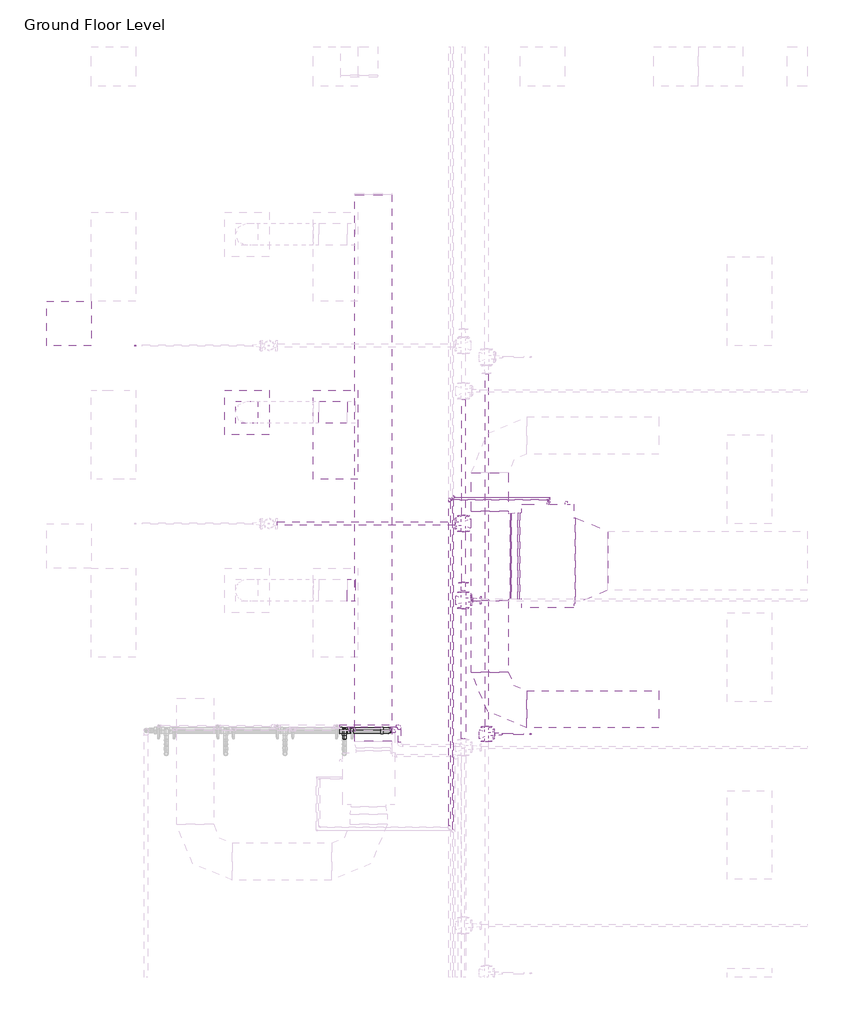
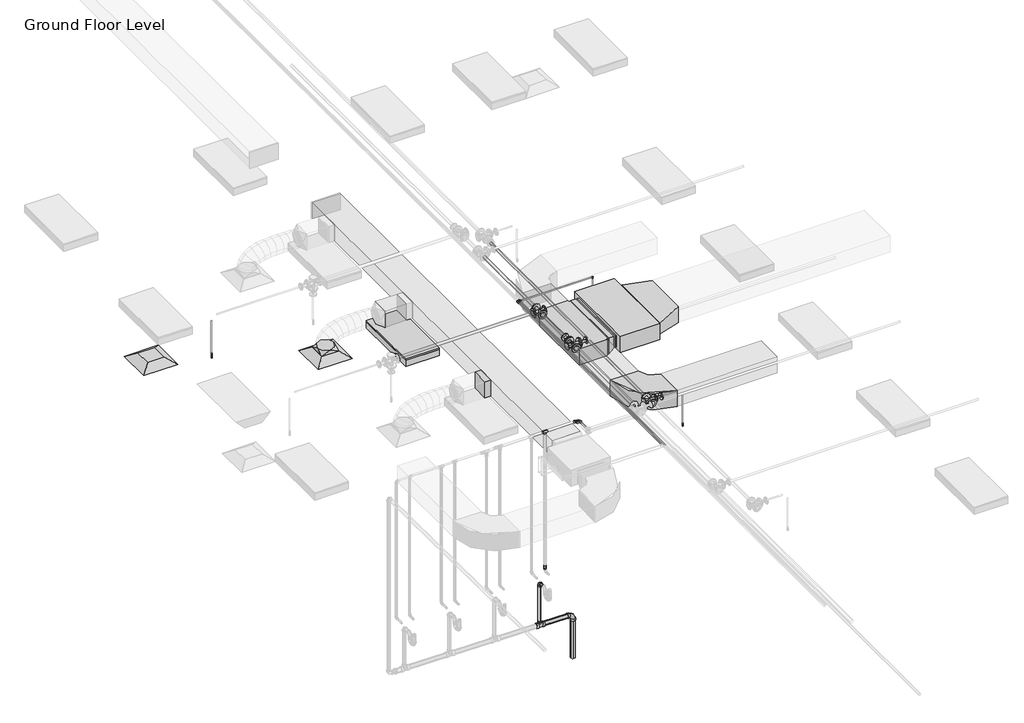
# One storey, part 25 of 74: 23 pipe fittings, 22 pipe segments, 7 duct fittings, 7 duct segments, 2 air terminals, 2 fire suppression terminals, 1 light fixture, 1 proxy.
"""IFC4 building model written with IfcOpenShell, lengths in millimetres."""

from ifc_helpers import new_model, si_unit, point, frame, frame_2d, origin, place, context, project, spatial, polyline, circle_curve, trimmed, segment, composite_curve, outline, extrude, transform, mapped, element, save
from components import m_return_diffuser_600_x_600_face_300_x_300_connection_ff221211, fcu_daikin_iu_5a1bd61d, m_rectangular_elbow_radius_1_w_abe20169, m_rectangular_takeoff_standard_cb0ccb98, m_rectangular_tee_standard_c717c13b, m_rectangular_transition_angle_45_degree_d2868699, m_rectangular_transition_angle_45_degree_3270bfc3, m_rectangular_transition_angle_45_degree_83bbb609, m_rectangular_to_round_transition_angle_45_degree_641efff0, m_sprinkler_dry_pendent_hosted_15_mm_dry_pendent_9bda8e11, m_sprinkler_pendent_15_mm_pendent_06fcbd8e, m_troffer_light_parabolic_rectangular1_0600x1200mm_4_lamp_86473d4a, m_bend_pvc_sch_40_dwv_standard_0eeb11e1, m_bend_pvc_sch_40_dwv_standard_1e7bdcc1, m_elbow_generic_standard_a088f956, m_elbow_generic_standard_2a704253, m_elbow_generic_standard_411ee063, m_elbow_generic_standard_a67d3ed8, m_reducer_flanged_cs_class_150_standard_cc2a7c1d, m_reducer_flanged_cs_class_150_standard_3ab32b2b, m_reducer_flanged_cs_class_150_standard_a7631c35, m_tee_generic_standard_5b2ed4d4, m_tee_generic_standard_5078887e, m_tee_reducing_sanitary_pvc_sch_40_dwv_standard_21d2848c, m_tee_round_base_flanged_cs_class_150_standard_dd767e04, m_tee_round_base_flanged_cs_class_150_standard_9c9133d0, m_tee_round_base_flanged_cs_class_150_standard_ab36f383, m_transition_generic_standard_5f8a9689, m_transition_generic_standard_bdcfe2c1, m_transition_generic_standard_44e35838, m_transition_generic_standard_570aa73b, standard_517a5a8d, standard_72b35c3b, standard_c7dcb452

model = new_model("IFC4")

# Units and contexts
model_context = context("Model", 3, world=origin())
ifc_project = project(units=[si_unit("LENGTHUNIT", "METRE", prefix="MILLI")], contexts=[model_context])

# Site, building, storey
site = spatial("IfcSite", under=ifc_project)
building = spatial("IfcBuilding", under=site)
storey = spatial("IfcBuildingStorey", under=building, Name="Ground Floor Level", Elevation=900.0)

# Air terminals
placement = place(None, origin())
m_return_diffuser_600_x_600_face_300_x_300_connection_shape = m_return_diffuser_600_x_600_face_300_x_300_connection_ff221211(model_context)
element("IfcAirTerminal", 1, ObjectType="M_Return Diffuser : 600 x 600 Face 300 x 300 Connection", at=placement, inside=storey, context=model_context, shape_type="MappedRepresentation", body=[
    mapped(m_return_diffuser_600_x_600_face_300_x_300_connection_shape, transform((362.7672395, -18364.7846466, 3650.0), x_axis=(1.0, 0.0, 0.0), y_axis=(0.0, 1.0, 0.0), z_axis=(0.0, 0.0, 1.0))),
])
element("IfcAirTerminal", 2, ObjectType="M_Supply Diffuser : 600 x 600 Face 300 x 300 Connection", at=placement, inside=storey, context=model_context, shape_type="MappedRepresentation", body=[
    mapped(m_return_diffuser_600_x_600_face_300_x_300_connection_shape, transform((2762.7672395, -19564.7846466, 3650.0), x_axis=(1.0, 0.0, 0.0), y_axis=(0.0, 1.0, 0.0), z_axis=(0.0, 0.0, 1.0))),
])

# Proxy
fcu_daikin_iu_shape = fcu_daikin_iu_5a1bd61d(model_context)
element("IfcBuildingElementProxy", 3, Name="FCU-DAIKIN IU : 9kW, 230V/50Hz/1Ph", ObjectType="FCU-DAIKIN IU : 9kW, 230V/50Hz/1Ph", at=placement, inside=storey, context=model_context, shape_type="MappedRepresentation", body=[
    mapped(fcu_daikin_iu_shape, transform((6820.4959647, -21503.0689179, 3984.0882279), x_axis=(0.0, 1.0, 0.0), y_axis=(-1.0, 0.0, 0.0), z_axis=(0.0, 0.0, 1.0))),
])

# Duct fittings
m_rectangular_elbow_radius_1_w_shape = m_rectangular_elbow_radius_1_w_abe20169(model_context)
element("IfcDuctFitting", 4, ObjectType="M_Rectangular Elbow - Radius : 1 W", at=placement, inside=storey, context=model_context, shape_type="MappedRepresentation", body=[
    mapped(m_rectangular_elbow_radius_1_w_shape, transform((6040.9897768, -23568.5689179, 4082.4543707), x_axis=(0.0, -1.0, 0.0), y_axis=(1.0, 0.0, 0.0), z_axis=(0.0, 0.0, 1.0))),
])
m_rectangular_takeoff_standard_shape = m_rectangular_takeoff_standard_cb0ccb98(model_context)
element("IfcDuctFitting", 5, ObjectType="M_Rectangular Takeoff : Standard", at=placement, inside=storey, context=model_context, shape_type="MappedRepresentation", body=[
    mapped(m_rectangular_takeoff_standard_shape, transform((4219.1581832, -21964.7846466, 4057.1519579), x_axis=(-1.0, 0.0, 0.0), y_axis=(0.0, 1.0, 0.0), z_axis=(0.0, 0.0, -1.0))),
])
m_rectangular_tee_standard_shape = m_rectangular_tee_standard_c717c13b(model_context)
element("IfcDuctFitting", 6, ObjectType="M_Rectangular Tee : Standard", at=placement, inside=storey, context=model_context, shape_type="MappedRepresentation", body=[
    mapped(m_rectangular_tee_standard_shape, transform((6040.9973279, -21503.0689179, 4082.4405262), x_axis=(0.0, -1.0, 0.0), y_axis=(-1.0, 0.0, 0.0), z_axis=(0.0, 0.0, -1.0))),
])
m_rectangular_transition_angle_45_degree_shape = m_rectangular_transition_angle_45_degree_d2868699(model_context)
element("IfcDuctFitting", 7, ObjectType="M_Rectangular Transition - Angle : 45 Degree", at=placement, inside=storey, context=model_context, shape_type="MappedRepresentation", body=[
    mapped(m_rectangular_transition_angle_45_degree_shape, transform((7195.8959647, -21566.5689179, 4150.0007279), x_axis=(1.0, 0.0, 0.0), y_axis=(0.0, 1.0, 0.0), z_axis=(0.0, 0.0, 1.0))),
])
m_rectangular_transition_angle_45_degree_2_shape = m_rectangular_transition_angle_45_degree_3270bfc3(model_context)
element("IfcDuctFitting", 8, ObjectType="M_Rectangular Transition - Angle : 45 Degree", at=placement, inside=storey, context=model_context, shape_type="MappedRepresentation", body=[
    mapped(m_rectangular_transition_angle_45_degree_2_shape, transform((6445.0959647, -21503.0689179, 4125.2882279), x_axis=(-1.0, 0.0, 0.0), y_axis=(0.0, -1.0, 0.0), z_axis=(0.0, 0.0, 1.0))),
])
m_rectangular_transition_angle_45_degree_3_shape = m_rectangular_transition_angle_45_degree_83bbb609(model_context)
element("IfcDuctFitting", 9, ObjectType="M_Rectangular Transition - Angle : 45 Degree", at=placement, inside=storey, context=model_context, shape_type="MappedRepresentation", body=[
    mapped(m_rectangular_transition_angle_45_degree_3_shape, transform((6416.9897764, -21503.0689179, 4125.4405264), x_axis=(-1.0, 0.0, 0.0), y_axis=(0.0, -1.0, 0.0), z_axis=(0.0, 0.0, 1.0))),
])
m_rectangular_to_round_transition_angle_45_degree_shape = m_rectangular_to_round_transition_angle_45_degree_641efff0(model_context)
element("IfcDuctFitting", 10, ObjectType="M_Rectangular to Round Transition - Angle : 45 Degree", at=placement, inside=storey, context=model_context, shape_type="MappedRepresentation", body=[
    mapped(m_rectangular_to_round_transition_angle_45_degree_shape, transform((2762.7672395, -19564.7846466, 3751.6), x_axis=(0.0, 0.0, 1.0), y_axis=(-1.0, 0.0, 0.0), z_axis=(0.0, -1.0, 0.0))),
])

# Duct segments
element("IfcDuctSegment", 11, ObjectType="Radius Elbows / Taps", at=placement, inside=storey, context=model_context, shape_type="SweptSolid", body=[
    extrude(outline(polyline([(0.0, -500.0), (0.0, 0.0), (7371.604175, 0.0), (7371.604175, -500.0), (0.0, -500.0)])), frame((4719.1581832, -16631.8629481, 3907.1429453), z_axis=(0.0, 1.6199957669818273e-06, 0.9999999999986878), x_axis=(0.0, -0.9999999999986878, 1.6199957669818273e-06)), (0.0, 0.0, 1.0), 300.0),
])
element("IfcDuctSegment", 12, ObjectType="Radius Elbows / Taps", at=placement, inside=storey, context=model_context, shape_type="SweptSolid", body=[
    extrude(outline(polyline([(6290.9897768, -20897.5689179), (5790.9897768, -20897.5689179), (5790.9897768, -20377.6206315), (6290.9897768, -20377.6206315), (6290.9897768, -20897.5689179)])), frame((0.0, 0.0, 3932.4543707), z_axis=(0.0, 0.0, 1.0), x_axis=(1.0, 0.0, 0.0)), (0.0, 0.0, 1.0), 300.0),
])
element("IfcDuctSegment", 13, ObjectType="Radius Elbows / Taps", at=placement, inside=storey, context=model_context, shape_type="SweptSolid", body=[
    extrude(outline(polyline([(5790.9897768, -22108.5689179), (6290.9897768, -22108.5689179), (6290.9897768, -23068.5689179), (5790.9897768, -23068.5689179), (5790.9897768, -22108.5689179)])), frame((0.0, 0.0, 3932.4543707), z_axis=(0.0, 0.0, 1.0), x_axis=(1.0, 0.0, 0.0)), (0.0, 0.0, 1.0), 300.0),
])
element("IfcDuctSegment", 14, ObjectType="Radius Elbows / Taps", at=placement, inside=storey, context=model_context, shape_type="SweptSolid", body=[
    extrude(outline(polyline([(6540.9897768, -23818.5689179), (6540.9897768, -23318.5689179), (8320.9897766, -23318.5689179), (8320.9897766, -23818.5689179), (6540.9897768, -23818.5689179)])), frame((0.0, 0.0, 3932.4543707), z_axis=(0.0, 0.0, 1.0), x_axis=(1.0, 0.0, 0.0)), (0.0, 0.0, 1.0), 300.0),
])
element("IfcDuctSegment", 15, ObjectType="Radius Elbows / Taps", at=placement, inside=storey, context=model_context, shape_type="SweptSolid", body=[
    extrude(outline(polyline([(6315.9897764, -22083.5689179), (6315.9897764, -20922.5689179), (6330.9897764, -20922.5689179), (6330.9897764, -22083.5689179), (6315.9897764, -22083.5689179)])), frame((0.0, 0.0, 3932.4405264), z_axis=(0.0, 0.0, 1.0), x_axis=(1.0, 0.0, 0.0)), (0.0, 0.0, 1.0), 300.0),
])
element("IfcDuctSegment", 16, ObjectType="Radius Elbows / Taps", at=placement, inside=storey, context=model_context, shape_type="SweptSolid", body=[
    extrude(outline(polyline([(6444.798299, -20922.0689179), (6444.798299, -22084.0689179), (6416.9897764, -22084.0689179), (6416.9897764, -20922.0689179), (6444.798299, -20922.0689179)])), frame((0.0, 0.0, 4018.4405264), z_axis=(0.0, 0.0, 1.0), x_axis=(1.0, 0.0, 0.0)), (0.0, 0.0, 1.0), 214.0),
])
element("IfcDuctSegment", 17, ObjectType="Radius Elbows / Taps", at=placement, inside=storey, context=model_context, shape_type="SweptSolid", body=[
    extrude(outline(polyline([(4117.5581832, -19414.7846466), (4117.5581832, -19714.7846466), (3732.9552689, -19714.7846466), (3732.9552689, -19414.7846466), (4117.5581832, -19414.7846466)])), frame((0.0, 0.0, 3907.1479019), z_axis=(0.0, 0.0, 1.0), x_axis=(1.0, 0.0, 0.0)), (0.0, 0.0, 1.0), 300.0),
])

# Fire suppression terminals
m_sprinkler_dry_pendent_hosted_15_mm_dry_pendent_shape = m_sprinkler_dry_pendent_hosted_15_mm_dry_pendent_9bda8e11(model_context)
element("IfcFireSuppressionTerminal", 18, ObjectType="M_Sprinkler - Dry - Pendent - Hosted : 15 mm Dry Pendent", at=placement, inside=storey, context=model_context, shape_type="MappedRepresentation", body=[
    mapped(m_sprinkler_dry_pendent_hosted_15_mm_dry_pendent_shape, transform((1262.7672395, -18664.7846466, 3650.0), x_axis=(1.0, 0.0, 0.0), y_axis=(0.0, -1.0, 0.0), z_axis=(0.0, 0.0, -1.0))),
])
m_sprinkler_pendent_15_mm_pendent_shape = m_sprinkler_pendent_15_mm_pendent_06fcbd8e(model_context)
element("IfcFireSuppressionTerminal", 19, ObjectType="M_Sprinkler - Pendent : 15 mm Pendent", at=placement, inside=storey, context=model_context, shape_type="MappedRepresentation", body=[
    mapped(m_sprinkler_pendent_15_mm_pendent_shape, transform((6592.5481019, -23903.6779349, 3650.0), x_axis=(1.0, 0.0, 0.0), y_axis=(0.0, 1.0, 0.0), z_axis=(0.0, 0.0, 1.0))),
])

# Light fixture
m_troffer_light_parabolic_rectangular1_0600x1200mm_4_lamp_shape = m_troffer_light_parabolic_rectangular1_0600x1200mm_4_lamp_86473d4a(model_context)
element("IfcLightFixture", 20, ObjectType="M_Troffer Light - Parabolic Rectangular1 : 0600x1200mm(4 Lamp) - 277V 2", at=placement, inside=storey, context=model_context, shape_type="MappedRepresentation", body=[
    mapped(m_troffer_light_parabolic_rectangular1_0600x1200mm_4_lamp_shape, transform((3903.3013074, -19846.081145, 3650.0), x_axis=(0.0, 1.0, 0.0), y_axis=(-1.0, 0.0, 0.0), z_axis=(0.0, 0.0, 1.0))),
])

# Pipe fittings
m_bend_pvc_sch_40_dwv_standard_shape = m_bend_pvc_sch_40_dwv_standard_0eeb11e1(model_context)
element("IfcPipeFitting", 21, ObjectType="M_Bend - PVC - Sch 40 - DWV : Standard", at=placement, inside=storey, context=model_context, shape_type="MappedRepresentation", body=[
    mapped(m_bend_pvc_sch_40_dwv_standard_shape, transform((4671.3267974, -23854.2948449, 706.9937306), x_axis=(0.9999500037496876, 0.0, -0.009999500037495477), y_axis=(-0.009999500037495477, 0.0, -0.9999500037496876), z_axis=(0.0, 1.0, 0.0))),
])
m_bend_pvc_sch_40_dwv_standard_2_shape = m_bend_pvc_sch_40_dwv_standard_1e7bdcc1(model_context)
element("IfcPipeFitting", 22, ObjectType="M_Bend - PVC - Sch 40 - DWV : Standard", at=placement, inside=storey, context=model_context, shape_type="MappedRepresentation", body=[
    mapped(m_bend_pvc_sch_40_dwv_standard_2_shape, transform((4078.7498, -23854.2948449, 1508.2594199), x_axis=(0.0, 0.9999500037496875, -0.00999950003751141), y_axis=(0.0, -0.00999950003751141, -0.9999500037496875), z_axis=(-1.0, 0.0, 0.0))),
])
m_elbow_generic_standard_shape = m_elbow_generic_standard_a088f956(model_context)
element("IfcPipeFitting", 23, ObjectType="M_Elbow - Generic : Standard", at=placement, inside=storey, context=model_context, shape_type="MappedRepresentation", body=[
    mapped(m_elbow_generic_standard_shape, transform((6820.4959647, -20745.3977393, 4390.0), x_axis=(1.0, 0.0, 0.0), y_axis=(0.0, 0.0, -1.0), z_axis=(0.0, 1.0, 0.0))),
])
m_elbow_generic_standard_2_shape = m_elbow_generic_standard_2a704253(model_context)
element("IfcPipeFitting", 24, ObjectType="M_Elbow - Generic : Standard", at=placement, inside=storey, context=model_context, shape_type="MappedRepresentation", body=[
    mapped(m_elbow_generic_standard_2_shape, transform((6845.4959647, -20711.8462992, 4377.5), x_axis=(1.0, 0.0, 0.0), y_axis=(0.0, 0.0, -1.0), z_axis=(0.0, 1.0, 0.0))),
])
m_elbow_generic_standard_3_shape = m_elbow_generic_standard_411ee063(model_context)
element("IfcPipeFitting", 25, ObjectType="M_Elbow - Generic : Standard", at=placement, inside=storey, context=model_context, shape_type="MappedRepresentation", body=[
    mapped(m_elbow_generic_standard_3_shape, transform((6820.4959647, -20745.3896748, 4084.1050098), x_axis=(0.0, 0.0, -1.0), y_axis=(0.0, -1.0, 0.0), z_axis=(-1.0, 0.0, 0.0))),
])
m_elbow_generic_standard_4_shape = m_elbow_generic_standard_a67d3ed8(model_context)
element("IfcPipeFitting", 26, ObjectType="M_Elbow - Generic : Standard", at=placement, inside=storey, context=model_context, shape_type="MappedRepresentation", body=[
    mapped(m_elbow_generic_standard_4_shape, transform((6845.4959647, -20711.8400273, 4134.9034747), x_axis=(0.0, 0.0, -1.0), y_axis=(0.0, -1.0, 0.0), z_axis=(-1.0, 0.0, 0.0))),
])
m_reducer_flanged_cs_class_150_standard_shape = m_reducer_flanged_cs_class_150_standard_cc2a7c1d(model_context)
element("IfcPipeFitting", 27, ObjectType="M_Reducer - Flanged - CS - Class 150 : Standard", at=placement, inside=storey, context=model_context, shape_type="MappedRepresentation", body=[
    mapped(m_reducer_flanged_cs_class_150_standard_shape, transform((6103.1564057, -23903.6779349, 4290.0), x_axis=(1.0, 0.0, 0.0), y_axis=(0.0, 0.0, -1.0), z_axis=(0.0, 1.0, 0.0))),
])
m_reducer_flanged_cs_class_150_standard_2_shape = m_reducer_flanged_cs_class_150_standard_3ab32b2b(model_context)
element("IfcPipeFitting", 28, ObjectType="M_Reducer - Flanged - CS - Class 150 : Standard", at=placement, inside=storey, context=model_context, shape_type="MappedRepresentation", body=[
    mapped(m_reducer_flanged_cs_class_150_standard_2_shape, transform((5684.6174894, -21984.0287346, 4347.5), x_axis=(0.0, 1.0, 0.0), y_axis=(-1.0, 0.0, 0.0), z_axis=(0.0, 0.0, 1.0))),
])
m_reducer_flanged_cs_class_150_standard_3_shape = m_reducer_flanged_cs_class_150_standard_a7631c35(model_context)
element("IfcPipeFitting", 29, ObjectType="M_Reducer - Flanged - CS - Class 150 : Standard", at=placement, inside=storey, context=model_context, shape_type="MappedRepresentation", body=[
    mapped(m_reducer_flanged_cs_class_150_standard_3_shape, transform((5798.6174894, -22098.0287346, 4347.5), x_axis=(1.0, 0.0, 0.0), y_axis=(0.0, 0.0, 1.0), z_axis=(0.0, -1.0, 0.0))),
])
m_tee_generic_standard_shape = m_tee_generic_standard_5b2ed4d4(model_context)
element("IfcPipeFitting", 30, ObjectType="M_Tee - Generic : Standard", at=placement, inside=storey, context=model_context, shape_type="MappedRepresentation", body=[
    mapped(m_tee_generic_standard_shape, transform((5543.9904113, -20711.8462992, 4377.5), x_axis=(0.0, -1.0, 0.0), y_axis=(-1.0, 0.0, 0.0), z_axis=(0.0, 0.0, -1.0))),
])
m_tee_generic_standard_2_shape = m_tee_generic_standard_5078887e(model_context)
element("IfcPipeFitting", 31, ObjectType="M_Tee - Generic : Standard", at=placement, inside=storey, context=model_context, shape_type="MappedRepresentation", body=[
    mapped(m_tee_generic_standard_2_shape, transform((5497.8951827, -20745.3977393, 4390.0), x_axis=(0.0, -1.0, 0.0), y_axis=(-1.0, 0.0, 0.0), z_axis=(0.0, 0.0, -1.0))),
])
m_tee_reducing_sanitary_pvc_sch_40_dwv_standard_shape = m_tee_reducing_sanitary_pvc_sch_40_dwv_standard_21d2848c(model_context)
element("IfcPipeFitting", 32, ObjectType="M_Tee Reducing Sanitary - PVC - Sch 40 - DWV : Standard", at=placement, inside=storey, context=model_context, shape_type="MappedRepresentation", body=[
    mapped(m_tee_reducing_sanitary_pvc_sch_40_dwv_standard_shape, transform((4078.7498, -23854.2948449, 713.0632162), x_axis=(-0.9999500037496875, 0.0, 0.00999950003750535), y_axis=(-0.00999950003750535, 0.0, -0.9999500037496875), z_axis=(0.0, -1.0, 0.0))),
])
m_tee_round_base_flanged_cs_class_150_standard_shape = m_tee_round_base_flanged_cs_class_150_standard_dd767e04(model_context)
element("IfcPipeFitting", 33, ObjectType="M_Tee Round Base - Flanged - CS - Class 150 : Standard", at=placement, inside=storey, context=model_context, shape_type="MappedRepresentation", body=[
    mapped(m_tee_round_base_flanged_cs_class_150_standard_shape, transform((5684.6174894, -22098.0287346, 4347.5), x_axis=(0.0, -1.0, 0.0), y_axis=(-1.0, 0.0, 0.0), z_axis=(0.0, 0.0, -1.0))),
])
m_tee_round_base_flanged_cs_class_150_standard_2_shape = m_tee_round_base_flanged_cs_class_150_standard_9c9133d0(model_context)
element("IfcPipeFitting", 34, ObjectType="M_Tee Round Base - Flanged - CS - Class 150 : Standard", at=placement, inside=storey, context=model_context, shape_type="MappedRepresentation", body=[
    mapped(m_tee_round_base_flanged_cs_class_150_standard_2_shape, transform((5997.057812, -23903.6779349, 4290.0), x_axis=(0.0, 1.0, 0.0), y_axis=(-1.0, 0.0, 0.0), z_axis=(0.0, 0.0, 1.0))),
])
m_tee_round_base_flanged_cs_class_150_standard_3_shape = m_tee_round_base_flanged_cs_class_150_standard_ab36f383(model_context)
element("IfcPipeFitting", 35, ObjectType="M_Tee Round Base - Flanged - CS - Class 150 : Standard", at=placement, inside=storey, context=model_context, shape_type="MappedRepresentation", body=[
    mapped(m_tee_round_base_flanged_cs_class_150_standard_3_shape, transform((5684.6174894, -21064.7846466, 4347.5), x_axis=(0.0, -1.0, 0.0), y_axis=(1.0, 0.0, 0.0), z_axis=(0.0, 0.0, 1.0))),
])
m_transition_generic_standard_shape = m_transition_generic_standard_5f8a9689(model_context)
element("IfcPipeFitting", 36, ObjectType="M_Transition - Generic : Standard", at=placement, inside=storey, context=model_context, shape_type="MappedRepresentation", body=[
    mapped(m_transition_generic_standard_shape, transform((5497.8951827, -20721.5852393, 4390.0), x_axis=(0.0, 1.0, 0.0), y_axis=(-1.0, 0.0, 0.0), z_axis=(0.0, 0.0, 1.0))),
])
m_transition_generic_standard_2_shape = m_transition_generic_standard_bdcfe2c1(model_context)
element("IfcPipeFitting", 37, ObjectType="M_Transition - Generic : Standard", at=placement, inside=storey, context=model_context, shape_type="MappedRepresentation", body=[
    mapped(m_transition_generic_standard_2_shape, transform((5564.6279113, -20711.8462992, 4377.5), x_axis=(1.0, 0.0, 0.0), y_axis=(0.0, 1.0, 0.0), z_axis=(0.0, 0.0, 1.0))),
])
m_transition_generic_standard_3_shape = m_transition_generic_standard_44e35838(model_context)
element("IfcPipeFitting", 38, ObjectType="M_Transition - Generic : Standard", at=placement, inside=storey, context=model_context, shape_type="MappedRepresentation", body=[
    mapped(m_transition_generic_standard_3_shape, transform((5521.7076827, -20745.3977393, 4390.0), x_axis=(1.0, 0.0, 0.0), y_axis=(0.0, 1.0, 0.0), z_axis=(0.0, 0.0, 1.0))),
])
m_transition_generic_standard_4_shape = m_transition_generic_standard_570aa73b(model_context)
element("IfcPipeFitting", 39, ObjectType="M_Transition - Generic : Standard", at=placement, inside=storey, context=model_context, shape_type="MappedRepresentation", body=[
    mapped(m_transition_generic_standard_4_shape, transform((5543.9904113, -20691.2087992, 4377.5), x_axis=(0.0, 1.0, 0.0), y_axis=(-1.0, 0.0, 0.0), z_axis=(0.0, 0.0, 1.0))),
])
standard_shape = standard_517a5a8d(model_context)
element("IfcPipeFitting", 40, ObjectType="M_Elbow - CPVC - Sch 40 : Standard", at=placement, inside=storey, context=model_context, shape_type="MappedRepresentation", body=[
    mapped(standard_shape, transform((4743.0647206, -23844.7846466, 4300.0), x_axis=(0.0, 1.0, 0.0), y_axis=(-1.0, 0.0, 0.0), z_axis=(0.0, 0.0, 1.0))),
])
element("IfcPipeFitting", 41, ObjectType="M_Elbow - CPVC - Sch 40 : Standard", at=placement, inside=storey, context=model_context, shape_type="MappedRepresentation", body=[
    mapped(standard_shape, transform((4820.5575802, -23794.921633, 4250.0), x_axis=(0.0, 1.0, 0.0), y_axis=(-1.0, 0.0, 0.0), z_axis=(0.0, 0.0, 1.0))),
])
standard_2_shape = standard_72b35c3b(model_context)
element("IfcPipeFitting", 42, ObjectType="M_Tee - CPVC - Sch 40 : Standard", at=placement, inside=storey, context=model_context, shape_type="MappedRepresentation", body=[
    mapped(standard_2_shape, transform((4183.0647206, -23844.7846466, 4300.0), x_axis=(-1.0, 0.0, 0.0), y_axis=(0.0, 0.0, 1.0), z_axis=(0.0, 1.0, 0.0))),
])
standard_3_shape = standard_c7dcb452(model_context)
element("IfcPipeFitting", 43, ObjectType="M_Coupling Reducing - CPVC - Sch 40 : Standard", at=placement, inside=storey, context=model_context, shape_type="MappedRepresentation", body=[
    mapped(standard_3_shape, transform((4183.0647206, -23844.7846466, 1725.32505), x_axis=(0.0, 0.0, 1.0), y_axis=(0.0, 1.0, 0.0), z_axis=(-1.0, 0.0, 0.0))),
])

# Pipe segments
element("IfcPipeSegment", 44, ObjectType="CPVC", at=placement, inside=storey, context=model_context, shape_type="SweptSolid", body=[
    extrude(outline(composite_curve([segment(trimmed(circle_curve(frame_2d((4250.0, 4820.5575802)), 16.7005), [point((4250.0, 4837.2580802))], [point((4266.7005, 4820.5575802))], False, "CARTESIAN"), True, "CONTINUOUS"), segment(trimmed(circle_curve(frame_2d((4250.0, 4820.5575802)), 16.7005), [point((4266.7005, 4820.5575802))], [point((4250.0, 4803.8570802))], False, "CARTESIAN"), True, "CONTINUOUS"), segment(trimmed(circle_curve(frame_2d((4250.0, 4820.5575802)), 16.7005), [point((4250.0, 4803.8570802))], [point((4233.2995, 4820.5575802))], False, "CARTESIAN"), True, "CONTINUOUS"), segment(trimmed(circle_curve(frame_2d((4250.0, 4820.5575802)), 16.7005), [point((4233.2995, 4820.5575802))], [point((4250.0, 4837.2580802))], False, "CARTESIAN"), True, "CONTINUOUS")], self_intersect=False)), frame((0.0, -24011.659083, 0.0), z_axis=(0.0, 1.0, 0.0), x_axis=(0.0, 0.0, 1.0)), (0.0, 0.0, 1.0), 173.4749),
])
element("IfcPipeSegment", 45, ObjectType="CPVC", at=placement, inside=storey, context=model_context, shape_type="SweptSolid", body=[
    extrude(outline(composite_curve([segment(trimmed(circle_curve(frame_2d((-23794.921633, 4250.0)), 16.7005), [point((-23811.622133, 4250.0))], [point((-23794.921633, 4266.7005))], False, "CARTESIAN"), True, "CONTINUOUS"), segment(trimmed(circle_curve(frame_2d((-23794.921633, 4250.0)), 16.7005), [point((-23794.921633, 4266.7005))], [point((-23778.221133, 4250.0))], False, "CARTESIAN"), True, "CONTINUOUS"), segment(trimmed(circle_curve(frame_2d((-23794.921633, 4250.0)), 16.7005), [point((-23778.221133, 4250.0))], [point((-23794.921633, 4233.2995))], False, "CARTESIAN"), True, "CONTINUOUS"), segment(trimmed(circle_curve(frame_2d((-23794.921633, 4250.0)), 16.7005), [point((-23794.921633, 4233.2995))], [point((-23811.622133, 4250.0))], False, "CARTESIAN"), True, "CONTINUOUS")], self_intersect=False)), frame((4014.1350794, 0.0, 0.0), z_axis=(1.0, 0.0, 0.0), x_axis=(0.0, 1.0, 0.0)), (0.0, 0.0, 1.0), 763.1599508),
])
element("IfcPipeSegment", 46, ObjectType="Copper", at=placement, inside=storey, context=model_context, shape_type="SweptSolid", body=[
    extrude(outline(composite_curve([segment(trimmed(circle_curve(frame_2d((-20711.8462992, 4377.5)), 3.35), [point((-20715.1962992, 4377.5))], [point((-20711.8462992, 4380.85))], False, "CARTESIAN"), True, "CONTINUOUS"), segment(trimmed(circle_curve(frame_2d((-20711.8462992, 4377.5)), 3.35), [point((-20711.8462992, 4380.85))], [point((-20708.4962992, 4377.5))], False, "CARTESIAN"), True, "CONTINUOUS"), segment(trimmed(circle_curve(frame_2d((-20711.8462992, 4377.5)), 3.35), [point((-20708.4962992, 4377.5))], [point((-20711.8462992, 4374.15))], False, "CARTESIAN"), True, "CONTINUOUS"), segment(trimmed(circle_curve(frame_2d((-20711.8462992, 4377.5)), 3.35), [point((-20711.8462992, 4374.15))], [point((-20715.1962992, 4377.5))], False, "CARTESIAN"), True, "CONTINUOUS")], self_intersect=False)), frame((5568.5966613, 0.0, 0.0), z_axis=(1.0, 0.0, 0.0), x_axis=(0.0, 1.0, 0.0)), (0.0, 0.0, 1.0), 1265.7618034),
])
element("IfcPipeSegment", 47, ObjectType="Copper", at=placement, inside=storey, context=model_context, shape_type="SweptSolid", body=[
    extrude(outline(composite_curve([segment(trimmed(circle_curve(frame_2d((-20745.3977393, 4390.0)), 6.5), [point((-20751.8977393, 4390.0))], [point((-20745.3977393, 4396.5))], False, "CARTESIAN"), True, "CONTINUOUS"), segment(trimmed(circle_curve(frame_2d((-20745.3977393, 4390.0)), 6.5), [point((-20745.3977393, 4396.5))], [point((-20738.8977393, 4390.0))], False, "CARTESIAN"), True, "CONTINUOUS"), segment(trimmed(circle_curve(frame_2d((-20745.3977393, 4390.0)), 6.5), [point((-20738.8977393, 4390.0))], [point((-20745.3977393, 4383.5))], False, "CARTESIAN"), True, "CONTINUOUS"), segment(trimmed(circle_curve(frame_2d((-20745.3977393, 4390.0)), 6.5), [point((-20745.3977393, 4383.5))], [point((-20751.8977393, 4390.0))], False, "CARTESIAN"), True, "CONTINUOUS")], self_intersect=False)), frame((5527.2639327, 0.0, 0.0), z_axis=(1.0, 0.0, 0.0), x_axis=(0.0, 1.0, 0.0)), (0.0, 0.0, 1.0), 1278.9445321),
])
element("IfcPipeSegment", 48, ObjectType="Copper", at=placement, inside=storey, context=model_context, shape_type="SweptSolid", body=[
    extrude(outline(composite_curve([segment(trimmed(circle_curve(frame_2d((0.0, -6.5)), 6.5), [point((-6.5, -6.5))], [point((0.0, 0.0))], False, "CARTESIAN"), True, "CONTINUOUS"), segment(trimmed(circle_curve(frame_2d((0.0, -6.5)), 6.5), [point((0.0, 0.0))], [point((6.5, -6.5))], False, "CARTESIAN"), True, "CONTINUOUS"), segment(trimmed(circle_curve(frame_2d((0.0, -6.5)), 6.5), [point((6.5, -6.5))], [point((0.0, -13.0))], False, "CARTESIAN"), True, "CONTINUOUS"), segment(trimmed(circle_curve(frame_2d((0.0, -6.5)), 6.5), [point((0.0, -13.0))], [point((-6.5, -6.5))], False, "CARTESIAN"), True, "CONTINUOUS")], self_intersect=False)), frame((6820.4959647, -20764.9497842, 4077.5882561), z_axis=(0.0, 0.9999956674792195, 0.0029436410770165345), x_axis=(1.0, 0.0, 0.0)), (0.0, 0.0, 1.0), 5.2929673),
])
element("IfcPipeSegment", 49, ObjectType="Copper", at=placement, inside=storey, context=model_context, shape_type="SweptSolid", body=[
    extrude(outline(composite_curve([segment(trimmed(circle_curve(frame_2d((0.0, -3.35)), 3.35), [point((0.0, 0.0))], [point((3.35, -3.35))], False, "CARTESIAN"), True, "CONTINUOUS"), segment(trimmed(circle_curve(frame_2d((0.0, -3.35)), 3.35), [point((3.35, -3.35))], [point((0.0, -6.7))], False, "CARTESIAN"), True, "CONTINUOUS"), segment(trimmed(circle_curve(frame_2d((0.0, -3.35)), 3.35), [point((0.0, -6.7))], [point((-3.35, -3.35))], False, "CARTESIAN"), True, "CONTINUOUS"), segment(trimmed(circle_curve(frame_2d((0.0, -3.35)), 3.35), [point((-3.35, -3.35))], [point((0.0, 0.0))], False, "CARTESIAN"), True, "CONTINUOUS")], self_intersect=False)), frame((6842.1459647, -20764.9689179, 4134.8882279), z_axis=(0.0, 0.9999999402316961, 0.00034574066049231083), x_axis=(0.0, 0.00034574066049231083, -0.9999999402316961)), (0.0, 0.0, 1.0), 41.9921215),
])
element("IfcPipeSegment", 50, ObjectType="Copper", at=placement, inside=storey, context=model_context, shape_type="SweptSolid", body=[
    extrude(outline(composite_curve([segment(trimmed(circle_curve(frame_2d((4377.5, 5543.9904113)), 6.5), [point((4377.5, 5550.4904113))], [point((4384.0, 5543.9904113))], False, "CARTESIAN"), True, "CONTINUOUS"), segment(trimmed(circle_curve(frame_2d((4377.5, 5543.9904113)), 6.5), [point((4384.0, 5543.9904113))], [point((4377.5, 5537.4904113))], False, "CARTESIAN"), True, "CONTINUOUS"), segment(trimmed(circle_curve(frame_2d((4377.5, 5543.9904113)), 6.5), [point((4377.5, 5537.4904113))], [point((4371.0, 5543.9904113))], False, "CARTESIAN"), True, "CONTINUOUS"), segment(trimmed(circle_curve(frame_2d((4377.5, 5543.9904113)), 6.5), [point((4371.0, 5543.9904113))], [point((4377.5, 5550.4904113))], False, "CARTESIAN"), True, "CONTINUOUS")], self_intersect=False)), frame((0.0, -25185.8524508, 0.0), z_axis=(0.0, 1.0, 0.0), x_axis=(0.0, 0.0, 1.0)), (0.0, 0.0, 1.0), 4453.3686516),
])
element("IfcPipeSegment", 51, ObjectType="Copper", at=placement, inside=storey, context=model_context, shape_type="SweptSolid", body=[
    extrude(outline(composite_curve([segment(trimmed(circle_curve(frame_2d((4390.0, 5497.8951827)), 9.75), [point((4390.0, 5507.6451827))], [point((4399.75, 5497.8951827))], False, "CARTESIAN"), True, "CONTINUOUS"), segment(trimmed(circle_curve(frame_2d((4390.0, 5497.8951827)), 9.75), [point((4399.75, 5497.8951827))], [point((4390.0, 5488.1451827))], False, "CARTESIAN"), True, "CONTINUOUS"), segment(trimmed(circle_curve(frame_2d((4390.0, 5497.8951827)), 9.75), [point((4390.0, 5488.1451827))], [point((4380.25, 5497.8951827))], False, "CARTESIAN"), True, "CONTINUOUS"), segment(trimmed(circle_curve(frame_2d((4390.0, 5497.8951827)), 9.75), [point((4380.25, 5497.8951827))], [point((4390.0, 5507.6451827))], False, "CARTESIAN"), True, "CONTINUOUS")], self_intersect=False)), frame((0.0, -25138.2771488, 0.0), z_axis=(0.0, 1.0, 0.0), x_axis=(0.0, 0.0, 1.0)), (0.0, 0.0, 1.0), 4369.0669095),
])
element("IfcPipeSegment", 52, ObjectType="Copper", at=placement, inside=storey, context=model_context, shape_type="SweptSolid", body=[
    extrude(outline(composite_curve([segment(trimmed(circle_curve(frame_2d((0.0, -6.5)), 6.5), [point((-6.5, -6.5))], [point((0.0, 0.0))], False, "CARTESIAN"), True, "CONTINUOUS"), segment(trimmed(circle_curve(frame_2d((0.0, -6.5)), 6.5), [point((0.0, 0.0))], [point((6.5, -6.5))], False, "CARTESIAN"), True, "CONTINUOUS"), segment(trimmed(circle_curve(frame_2d((0.0, -6.5)), 6.5), [point((6.5, -6.5))], [point((0.0, -13.0))], False, "CARTESIAN"), True, "CONTINUOUS"), segment(trimmed(circle_curve(frame_2d((0.0, -6.5)), 6.5), [point((0.0, -13.0))], [point((-6.5, -6.5))], False, "CARTESIAN"), True, "CONTINUOUS")], self_intersect=False)), frame((6820.4959647, -20751.8896748, 4098.3911194), z_axis=(0.0, -2.907973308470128e-05, 0.9999999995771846), x_axis=(-1.0, 0.0, 0.0)), (0.0, 0.0, 1.0), 277.3211917),
])
element("IfcPipeSegment", 53, ObjectType="Copper", at=placement, inside=storey, context=model_context, shape_type="SweptSolid", body=[
    extrude(outline(composite_curve([segment(trimmed(circle_curve(frame_2d((0.0, -3.35)), 3.35), [point((-3.35, -3.35))], [point((0.0, 0.0))], False, "CARTESIAN"), True, "CONTINUOUS"), segment(trimmed(circle_curve(frame_2d((0.0, -3.35)), 3.35), [point((0.0, 0.0))], [point((3.35, -3.35))], False, "CARTESIAN"), True, "CONTINUOUS"), segment(trimmed(circle_curve(frame_2d((0.0, -3.35)), 3.35), [point((3.35, -3.35))], [point((0.0, -6.7))], False, "CARTESIAN"), True, "CONTINUOUS"), segment(trimmed(circle_curve(frame_2d((0.0, -3.35)), 3.35), [point((0.0, -6.7))], [point((-3.35, -3.35))], False, "CARTESIAN"), True, "CONTINUOUS")], self_intersect=False)), frame((6845.4959647, -20715.1900273, 4146.0401509), z_axis=(0.0, -2.8466951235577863e-05, 0.9999999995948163), x_axis=(-1.0, 0.0, 0.0)), (0.0, 0.0, 1.0), 220.3222538),
])
element("IfcPipeSegment", 54, ObjectType="PVC - DWV", at=placement, inside=storey, context=model_context, shape_type="SweptSolid", body=[
    extrude(outline(composite_curve([segment(trimmed(circle_curve(frame_2d((0.0, -36.5125)), 36.5125), [point((0.0, -73.025))], [point((-36.5125001, -36.5125))], False, "CARTESIAN"), True, "CONTINUOUS"), segment(trimmed(circle_curve(frame_2d((0.0, -36.5125)), 36.5125), [point((-36.5125001, -36.5125))], [point((0.0, 0.0))], False, "CARTESIAN"), True, "CONTINUOUS"), segment(trimmed(circle_curve(frame_2d((0.0, -36.5125)), 36.5125), [point((0.0, 0.0))], [point((36.5125, -36.5125))], False, "CARTESIAN"), True, "CONTINUOUS"), segment(trimmed(circle_curve(frame_2d((0.0, -36.5125)), 36.5125), [point((36.5125, -36.5125))], [point((0.0, -73.025))], False, "CARTESIAN"), True, "CONTINUOUS")], self_intersect=False)), frame((4572.3191851, -23817.7823449, 708.1338068), z_axis=(-0.9999501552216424, 0.0, 0.009984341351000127), x_axis=(0.009984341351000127, 0.0, 0.9999501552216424)), (0.0, 0.0, 1.0), 414.5308814),
])
element("IfcPipeSegment", 55, ObjectType="PVC - DWV", at=placement, inside=storey, context=model_context, shape_type="SweptSolid", body=[
    extrude(outline(composite_curve([segment(trimmed(circle_curve(frame_2d((0.0, -24.13)), 24.13), [point((24.13, -24.13))], [point((0.0, -48.26))], False, "CARTESIAN"), True, "CONTINUOUS"), segment(trimmed(circle_curve(frame_2d((0.0, -24.13)), 24.13), [point((0.0, -48.26))], [point((-24.13, -24.13))], False, "CARTESIAN"), True, "CONTINUOUS"), segment(trimmed(circle_curve(frame_2d((0.0, -24.13)), 24.13), [point((-24.13, -24.13))], [point((0.0, 0.0))], False, "CARTESIAN"), True, "CONTINUOUS"), segment(trimmed(circle_curve(frame_2d((0.0, -24.13)), 24.13), [point((0.0, 0.0))], [point((24.13, -24.13))], False, "CARTESIAN"), True, "CONTINUOUS")], self_intersect=False)), frame((4078.7498, -23915.9502622, 1533.0071805), z_axis=(0.0, -0.9999500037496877, 0.009999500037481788), x_axis=(1.0, 0.0, 0.0)), (0.0, 0.0, 1.0), 60.2666156),
])
element("IfcPipeSegment", 56, ObjectType="PVC - DWV", at=placement, inside=storey, context=model_context, shape_type="SweptSolid", body=[
    extrude(outline(composite_curve([segment(trimmed(circle_curve(frame_2d((4078.7498, -23854.2948449)), 24.13), [point((4054.6198, -23854.2948449))], [point((4078.7498, -23830.1648449))], False, "CARTESIAN"), True, "CONTINUOUS"), segment(trimmed(circle_curve(frame_2d((4078.7498, -23854.2948449)), 24.13), [point((4078.7498, -23830.1648449))], [point((4102.8798, -23854.2948449))], False, "CARTESIAN"), True, "CONTINUOUS"), segment(trimmed(circle_curve(frame_2d((4078.7498, -23854.2948449)), 24.13), [point((4102.8798, -23854.2948449))], [point((4078.7498, -23878.4248449))], False, "CARTESIAN"), True, "CONTINUOUS"), segment(trimmed(circle_curve(frame_2d((4078.7498, -23854.2948449)), 24.13), [point((4078.7498, -23878.4248449))], [point((4054.6198, -23854.2948449))], False, "CARTESIAN"), True, "CONTINUOUS")], self_intersect=False)), frame((0.0, 0.0, 793.9106725), z_axis=(0.0, 0.0, 1.0), x_axis=(1.0, 0.0, 0.0)), (0.0, 0.0, 1.0), 652.4489474),
])
element("IfcPipeSegment", 57, ObjectType="PVC - DWV", at=placement, inside=storey, context=model_context, shape_type="SweptSolid", body=[
    extrude(outline(composite_curve([segment(trimmed(circle_curve(frame_2d((0.0, -36.5125)), 36.5125), [point((-36.5125, -36.5125))], [point((0.0, 0.0))], False, "CARTESIAN"), True, "CONTINUOUS"), segment(trimmed(circle_curve(frame_2d((0.0, -36.5125)), 36.5125), [point((0.0, 0.0))], [point((36.5125, -36.5125))], False, "CARTESIAN"), True, "CONTINUOUS"), segment(trimmed(circle_curve(frame_2d((0.0, -36.5125)), 36.5125), [point((36.5125, -36.5125))], [point((0.0, -73.025))], False, "CARTESIAN"), True, "CONTINUOUS"), segment(trimmed(circle_curve(frame_2d((0.0, -36.5125)), 36.5125), [point((0.0, -73.025))], [point((-36.5125, -36.5125))], False, "CARTESIAN"), True, "CONTINUOUS")], self_intersect=False)), frame((4671.2998001, -23890.8073449, -100.0), z_axis=(3.81328750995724e-05, 0.0, 0.999999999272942), x_axis=(-0.999999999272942, 0.0, 3.81328750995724e-05)), (0.0, 0.0, 1.0), 707.9796686),
])
element("IfcPipeSegment", 58, ObjectType="Steel flanged", at=placement, inside=storey, context=model_context, shape_type="SweptSolid", body=[
    extrude(outline(composite_curve([segment(trimmed(circle_curve(frame_2d((6592.5481019, -23903.6779349)), 10.668), [point((6581.8801019, -23903.6779349))], [point((6592.5481019, -23893.0099349))], False, "CARTESIAN"), True, "CONTINUOUS"), segment(trimmed(circle_curve(frame_2d((6592.5481019, -23903.6779349)), 10.668), [point((6592.5481019, -23893.0099349))], [point((6603.2161019, -23903.6779349))], False, "CARTESIAN"), True, "CONTINUOUS"), segment(trimmed(circle_curve(frame_2d((6592.5481019, -23903.6779349)), 10.668), [point((6603.2161019, -23903.6779349))], [point((6592.5481019, -23914.3459349))], False, "CARTESIAN"), True, "CONTINUOUS"), segment(trimmed(circle_curve(frame_2d((6592.5481019, -23903.6779349)), 10.668), [point((6592.5481019, -23914.3459349))], [point((6581.8801019, -23903.6779349))], False, "CARTESIAN"), True, "CONTINUOUS")], self_intersect=False)), frame((0.0, 0.0, 3650.0), z_axis=(0.0, 0.0, 1.0), x_axis=(1.0, 0.0, 0.0)), (0.0, 0.0, 1.0), 546.9914062),
])
element("IfcPipeSegment", 59, ObjectType="Steel flanged", at=placement, inside=storey, context=model_context, shape_type="SweptSolid", body=[
    extrude(outline(composite_curve([segment(trimmed(circle_curve(frame_2d((-23903.6779349, 4290.0)), 10.668), [point((-23893.0099349, 4290.0))], [point((-23903.6779349, 4279.332))], False, "CARTESIAN"), True, "CONTINUOUS"), segment(trimmed(circle_curve(frame_2d((-23903.6779349, 4290.0)), 10.668), [point((-23903.6779349, 4279.332))], [point((-23914.3459349, 4290.0))], False, "CARTESIAN"), True, "CONTINUOUS"), segment(trimmed(circle_curve(frame_2d((-23903.6779349, 4290.0)), 10.668), [point((-23914.3459349, 4290.0))], [point((-23903.6779349, 4300.668))], False, "CARTESIAN"), True, "CONTINUOUS"), segment(trimmed(circle_curve(frame_2d((-23903.6779349, 4290.0)), 10.668), [point((-23903.6779349, 4300.668))], [point((-23893.0099349, 4290.0))], False, "CARTESIAN"), True, "CONTINUOUS")], self_intersect=False)), frame((6217.1564057, 0.0, 0.0), z_axis=(1.0, 0.0, 0.0), x_axis=(0.0, 1.0, 0.0)), (0.0, 0.0, 1.0), 282.3831025),
])
element("IfcPipeSegment", 60, ObjectType="Steel flanged", at=placement, inside=storey, context=model_context, shape_type="SweptSolid", body=[
    extrude(outline(composite_curve([segment(trimmed(circle_curve(frame_2d((4290.0, 5997.057812)), 21.082), [point((4290.0, 5975.975812))], [point((4268.918, 5997.057812))], False, "CARTESIAN"), True, "CONTINUOUS"), segment(trimmed(circle_curve(frame_2d((4290.0, 5997.057812)), 21.082), [point((4268.918, 5997.057812))], [point((4290.0, 6018.139812))], False, "CARTESIAN"), True, "CONTINUOUS"), segment(trimmed(circle_curve(frame_2d((4290.0, 5997.057812)), 21.082), [point((4290.0, 6018.139812))], [point((4311.082, 5997.057812))], False, "CARTESIAN"), True, "CONTINUOUS"), segment(trimmed(circle_curve(frame_2d((4290.0, 5997.057812)), 21.082), [point((4311.082, 5997.057812))], [point((4290.0, 5975.975812))], False, "CARTESIAN"), True, "CONTINUOUS")], self_intersect=False)), frame((0.0, -23797.5793411, 0.0), z_axis=(0.0, 1.0, 0.0), x_axis=(0.0, 0.0, 1.0)), (0.0, 0.0, 1.0), 4752.4508334),
])
element("IfcPipeSegment", 61, ObjectType="Steel flanged", at=placement, inside=storey, context=model_context, shape_type="SweptSolid", body=[
    extrude(outline(composite_curve([segment(trimmed(circle_curve(frame_2d((4347.5, 5684.6174894)), 30.1625), [point((4347.5, 5714.7799894))], [point((4377.6625, 5684.6174894))], False, "CARTESIAN"), True, "CONTINUOUS"), segment(trimmed(circle_curve(frame_2d((4347.5, 5684.6174894)), 30.1625), [point((4377.6625, 5684.6174894))], [point((4347.5, 5654.4549894))], False, "CARTESIAN"), True, "CONTINUOUS"), segment(trimmed(circle_curve(frame_2d((4347.5, 5684.6174894)), 30.1625), [point((4347.5, 5654.4549894))], [point((4317.3375, 5684.6174894))], False, "CARTESIAN"), True, "CONTINUOUS"), segment(trimmed(circle_curve(frame_2d((4347.5, 5684.6174894)), 30.1625), [point((4317.3375, 5684.6174894))], [point((4347.5, 5714.7799894))], False, "CARTESIAN"), True, "CONTINUOUS")], self_intersect=False)), frame((0.0, -23969.6779349, 0.0), z_axis=(0.0, 1.0, 0.0), x_axis=(0.0, 0.0, 1.0)), (0.0, 0.0, 1.0), 1757.6492003),
])
element("IfcPipeSegment", 62, ObjectType="Steel flanged", at=placement, inside=storey, context=model_context, shape_type="SweptSolid", body=[
    extrude(outline(composite_curve([segment(trimmed(circle_curve(frame_2d((1262.7672395, -18664.7846466)), 10.668), [point((1252.0992395, -18664.7846466))], [point((1262.7672395, -18654.1166466))], False, "CARTESIAN"), True, "CONTINUOUS"), segment(trimmed(circle_curve(frame_2d((1262.7672395, -18664.7846466)), 10.668), [point((1262.7672395, -18654.1166466))], [point((1273.4352395, -18664.7846466))], False, "CARTESIAN"), True, "CONTINUOUS"), segment(trimmed(circle_curve(frame_2d((1262.7672395, -18664.7846466)), 10.668), [point((1273.4352395, -18664.7846466))], [point((1262.7672395, -18675.4526466))], False, "CARTESIAN"), True, "CONTINUOUS"), segment(trimmed(circle_curve(frame_2d((1262.7672395, -18664.7846466)), 10.668), [point((1262.7672395, -18675.4526466))], [point((1252.0992395, -18664.7846466))], False, "CARTESIAN"), True, "CONTINUOUS")], self_intersect=False)), frame((0.0, 0.0, 3650.0), z_axis=(0.0, 0.0, 1.0), x_axis=(1.0, 0.0, 0.0)), (0.0, 0.0, 1.0), 604.4914062),
])
element("IfcPipeSegment", 63, ObjectType="Steel flanged", at=placement, inside=storey, context=model_context, shape_type="SweptSolid", body=[
    extrude(outline(composite_curve([segment(trimmed(circle_curve(frame_2d((4347.5, 5684.6174894)), 24.13), [point((4347.5, 5708.7474894))], [point((4371.63, 5684.6174894))], False, "CARTESIAN"), True, "CONTINUOUS"), segment(trimmed(circle_curve(frame_2d((4347.5, 5684.6174894)), 24.13), [point((4371.63, 5684.6174894))], [point((4347.5, 5660.4874894))], False, "CARTESIAN"), True, "CONTINUOUS"), segment(trimmed(circle_curve(frame_2d((4347.5, 5684.6174894)), 24.13), [point((4347.5, 5660.4874894))], [point((4323.37, 5684.6174894))], False, "CARTESIAN"), True, "CONTINUOUS"), segment(trimmed(circle_curve(frame_2d((4347.5, 5684.6174894)), 24.13), [point((4323.37, 5684.6174894))], [point((4347.5, 5708.7474894))], False, "CARTESIAN"), True, "CONTINUOUS")], self_intersect=False)), frame((0.0, -20952.5260529, 0.0), z_axis=(0.0, 1.0, 0.0), x_axis=(0.0, 0.0, 1.0)), (0.0, 0.0, 1.0), 1564.3818468),
])
element("IfcPipeSegment", 64, ObjectType="Steel flanged", at=placement, inside=storey, context=model_context, shape_type="SweptSolid", body=[
    extrude(outline(composite_curve([segment(trimmed(circle_curve(frame_2d((4347.5, 5684.6174894)), 24.13), [point((4347.5, 5708.7474894))], [point((4371.63, 5684.6174894))], False, "CARTESIAN"), True, "CONTINUOUS"), segment(trimmed(circle_curve(frame_2d((4347.5, 5684.6174894)), 24.13), [point((4371.63, 5684.6174894))], [point((4347.5, 5660.4874894))], False, "CARTESIAN"), True, "CONTINUOUS"), segment(trimmed(circle_curve(frame_2d((4347.5, 5684.6174894)), 24.13), [point((4347.5, 5660.4874894))], [point((4323.37, 5684.6174894))], False, "CARTESIAN"), True, "CONTINUOUS"), segment(trimmed(circle_curve(frame_2d((4347.5, 5684.6174894)), 24.13), [point((4323.37, 5684.6174894))], [point((4347.5, 5708.7474894))], False, "CARTESIAN"), True, "CONTINUOUS")], self_intersect=False)), frame((0.0, -21857.0287346, 0.0), z_axis=(0.0, 1.0, 0.0), x_axis=(0.0, 0.0, 1.0)), (0.0, 0.0, 1.0), 679.9854942),
])
element("IfcPipeSegment", 65, ObjectType="Steel flanged", at=placement, inside=storey, context=model_context, shape_type="SweptSolid", body=[
    extrude(outline(composite_curve([segment(trimmed(circle_curve(frame_2d((-21064.7846466, 4347.5)), 24.13), [point((-21088.9146466, 4347.5))], [point((-21064.7846466, 4371.63))], False, "CARTESIAN"), True, "CONTINUOUS"), segment(trimmed(circle_curve(frame_2d((-21064.7846466, 4347.5)), 24.13), [point((-21064.7846466, 4371.63))], [point((-21040.6546466, 4347.5))], False, "CARTESIAN"), True, "CONTINUOUS"), segment(trimmed(circle_curve(frame_2d((-21064.7846466, 4347.5)), 24.13), [point((-21040.6546466, 4347.5))], [point((-21064.7846466, 4323.37))], False, "CARTESIAN"), True, "CONTINUOUS"), segment(trimmed(circle_curve(frame_2d((-21064.7846466, 4347.5)), 24.13), [point((-21064.7846466, 4323.37))], [point((-21088.9146466, 4347.5))], False, "CARTESIAN"), True, "CONTINUOUS")], self_intersect=False)), frame((3175.0258332, 0.0, 0.0), z_axis=(1.0, 0.0, 0.0), x_axis=(0.0, 1.0, 0.0)), (0.0, 0.0, 1.0), 2397.3330624),
])

save(model, "model.ifc")
